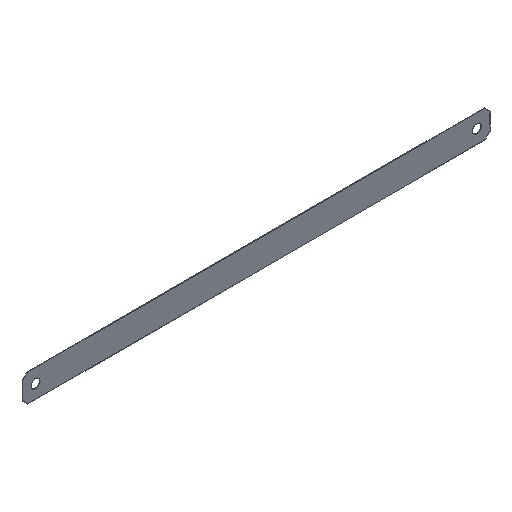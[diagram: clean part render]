
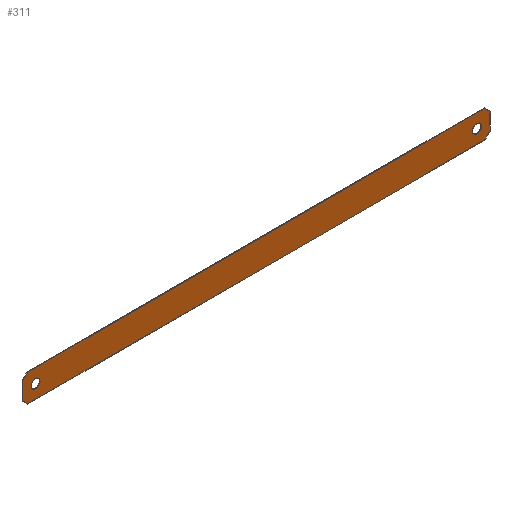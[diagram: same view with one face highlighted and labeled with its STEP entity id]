
A CAD part, isometric view. The second image highlights one B-rep face of the part: STEP entity #311.
In plain terms, the highlighted planar face has unit normal (0, -1, 0).
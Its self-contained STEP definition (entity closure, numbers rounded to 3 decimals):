
#4 = VECTOR ( 'NONE', #442, 1000. ) ;
#5 = AXIS2_PLACEMENT_3D ( 'NONE', #69, #317, #428 ) ;
#6 = VERTEX_POINT ( 'NONE', #419 ) ;
#21 = ORIENTED_EDGE ( 'NONE', *, *, #495, .F. ) ;
#24 = LINE ( 'NONE', #516, #433 ) ;
#30 = LINE ( 'NONE', #95, #104 ) ;
#34 = VERTEX_POINT ( 'NONE', #467 ) ;
#37 = DIRECTION ( 'NONE',  ( 0., 0., 1. ) ) ;
#40 = DIRECTION ( 'NONE',  ( 0., 1., 0. ) ) ;
#46 = VERTEX_POINT ( 'NONE', #307 ) ;
#48 = EDGE_CURVE ( 'NONE', #277, #502, #192, .T. ) ;
#50 = VECTOR ( 'NONE', #450, 1000. ) ;
#52 = ORIENTED_EDGE ( 'NONE', *, *, #115, .T. ) ;
#53 = AXIS2_PLACEMENT_3D ( 'NONE', #213, #85, #331 ) ;
#54 = CARTESIAN_POINT ( 'NONE',  ( 270., 0., -3. ) ) ;
#62 = VECTOR ( 'NONE', #156, 1000. ) ;
#65 = LINE ( 'NONE', #134, #50 ) ;
#69 = CARTESIAN_POINT ( 'NONE',  ( 262.5, 0., -8. ) ) ;
#73 = CARTESIAN_POINT ( 'NONE',  ( 262.5, 0., -8. ) ) ;
#78 = AXIS2_PLACEMENT_3D ( 'NONE', #393, #40, #397 ) ;
#79 = CARTESIAN_POINT ( 'NONE',  ( 267., 0., 0. ) ) ;
#84 = DIRECTION ( 'NONE',  ( 0.707, 0., 0.707 ) ) ;
#85 = DIRECTION ( 'NONE',  ( 0., -1., 0. ) ) ;
#88 = AXIS2_PLACEMENT_3D ( 'NONE', #323, #358, #37 ) ;
#89 = LINE ( 'NONE', #439, #443 ) ;
#95 = CARTESIAN_POINT ( 'NONE',  ( 0., 0., -16. ) ) ;
#104 = VECTOR ( 'NONE', #487, 1000. ) ;
#109 = CIRCLE ( 'NONE', #88, 2.5 ) ;
#111 = EDGE_LOOP ( 'NONE', ( #453, #375, #479, #183, #296, #416, #21, #257 ) ) ;
#112 = EDGE_CURVE ( 'NONE', #34, #290, #199, .T. ) ;
#115 = EDGE_CURVE ( 'NONE', #290, #34, #386, .T. ) ;
#118 = DIRECTION ( 'NONE',  ( 0., 0., 1. ) ) ;
#125 = AXIS2_PLACEMENT_3D ( 'NONE', #73, #354, #118 ) ;
#129 = EDGE_LOOP ( 'NONE', ( #303, #141 ) ) ;
#132 = FACE_OUTER_BOUND ( 'NONE', #111, .T. ) ;
#134 = CARTESIAN_POINT ( 'NONE',  ( -6.5, 0., -6.5 ) ) ;
#141 = ORIENTED_EDGE ( 'NONE', *, *, #276, .T. ) ;
#151 = VECTOR ( 'NONE', #197, 1000. ) ;
#156 = DIRECTION ( 'NONE',  ( -0.707, 0., 0.707 ) ) ;
#163 = LINE ( 'NONE', #206, #62 ) ;
#167 = EDGE_LOOP ( 'NONE', ( #52, #464 ) ) ;
#173 = CARTESIAN_POINT ( 'NONE',  ( 7.5, 0., -10.5 ) ) ;
#183 = ORIENTED_EDGE ( 'NONE', *, *, #48, .T. ) ;
#186 = CARTESIAN_POINT ( 'NONE',  ( 0., 0., -3. ) ) ;
#192 = LINE ( 'NONE', #246, #151 ) ;
#197 = DIRECTION ( 'NONE',  ( -0.707, 0., -0.707 ) ) ;
#199 = CIRCLE ( 'NONE', #125, 2.5 ) ;
#202 = CARTESIAN_POINT ( 'NONE',  ( 262.5, 0., -10.5 ) ) ;
#206 = CARTESIAN_POINT ( 'NONE',  ( 133.5, 0., 133.5 ) ) ;
#212 = EDGE_CURVE ( 'NONE', #277, #278, #24, .T. ) ;
#213 = CARTESIAN_POINT ( 'NONE',  ( 0., 0., 0. ) ) ;
#228 = EDGE_CURVE ( 'NONE', #392, #233, #496, .T. ) ;
#233 = VERTEX_POINT ( 'NONE', #436 ) ;
#241 = VECTOR ( 'NONE', #404, 1000. ) ;
#246 = CARTESIAN_POINT ( 'NONE',  ( 1.5, 0., -1.5 ) ) ;
#257 = ORIENTED_EDGE ( 'NONE', *, *, #340, .T. ) ;
#260 = CARTESIAN_POINT ( 'NONE',  ( 0., 0., 0. ) ) ;
#271 = LINE ( 'NONE', #260, #241 ) ;
#276 = EDGE_CURVE ( 'NONE', #233, #392, #109, .T. ) ;
#277 = VERTEX_POINT ( 'NONE', #472 ) ;
#278 = VERTEX_POINT ( 'NONE', #79 ) ;
#290 = VERTEX_POINT ( 'NONE', #202 ) ;
#296 = ORIENTED_EDGE ( 'NONE', *, *, #328, .F. ) ;
#297 = PLANE ( 'NONE',  #53 ) ;
#303 = ORIENTED_EDGE ( 'NONE', *, *, #228, .T. ) ;
#305 = EDGE_CURVE ( 'NONE', #491, #278, #163, .T. ) ;
#307 = CARTESIAN_POINT ( 'NONE',  ( 3., 0., -16. ) ) ;
#311 = ADVANCED_FACE ( 'NONE', ( #390, #132, #362 ), #297, .T. ) ;
#317 = DIRECTION ( 'NONE',  ( 0., 1., 0. ) ) ;
#321 = DIRECTION ( 'NONE',  ( 1., 0., 0. ) ) ;
#323 = CARTESIAN_POINT ( 'NONE',  ( 7.5, 0., -8. ) ) ;
#328 = EDGE_CURVE ( 'NONE', #369, #502, #271, .T. ) ;
#331 = DIRECTION ( 'NONE',  ( 0., 0., -1. ) ) ;
#340 = EDGE_CURVE ( 'NONE', #359, #6, #89, .T. ) ;
#354 = DIRECTION ( 'NONE',  ( 0., 1., 0. ) ) ;
#358 = DIRECTION ( 'NONE',  ( 0., 1., 0. ) ) ;
#359 = VERTEX_POINT ( 'NONE', #480 ) ;
#362 = FACE_BOUND ( 'NONE', #167, .T. ) ;
#369 = VERTEX_POINT ( 'NONE', #483 ) ;
#375 = ORIENTED_EDGE ( 'NONE', *, *, #305, .T. ) ;
#386 = CIRCLE ( 'NONE', #5, 2.5 ) ;
#390 = FACE_BOUND ( 'NONE', #129, .T. ) ;
#392 = VERTEX_POINT ( 'NONE', #173 ) ;
#393 = CARTESIAN_POINT ( 'NONE',  ( 7.5, 0., -8. ) ) ;
#397 = DIRECTION ( 'NONE',  ( 0., 0., 1. ) ) ;
#404 = DIRECTION ( 'NONE',  ( 0., 0., 1. ) ) ;
#416 = ORIENTED_EDGE ( 'NONE', *, *, #458, .T. ) ;
#419 = CARTESIAN_POINT ( 'NONE',  ( 270., 0., -13. ) ) ;
#428 = DIRECTION ( 'NONE',  ( 0., 0., 1. ) ) ;
#430 = EDGE_CURVE ( 'NONE', #491, #6, #459, .T. ) ;
#433 = VECTOR ( 'NONE', #321, 1000. ) ;
#436 = CARTESIAN_POINT ( 'NONE',  ( 7.5, 0., -5.5 ) ) ;
#439 = CARTESIAN_POINT ( 'NONE',  ( 141.5, 0., -141.5 ) ) ;
#442 = DIRECTION ( 'NONE',  ( 0., 0., -1. ) ) ;
#443 = VECTOR ( 'NONE', #84, 1000. ) ;
#444 = CARTESIAN_POINT ( 'NONE',  ( 270., 0., 0. ) ) ;
#450 = DIRECTION ( 'NONE',  ( 0.707, 0., -0.707 ) ) ;
#453 = ORIENTED_EDGE ( 'NONE', *, *, #430, .F. ) ;
#458 = EDGE_CURVE ( 'NONE', #369, #46, #65, .T. ) ;
#459 = LINE ( 'NONE', #444, #4 ) ;
#464 = ORIENTED_EDGE ( 'NONE', *, *, #112, .T. ) ;
#467 = CARTESIAN_POINT ( 'NONE',  ( 262.5, 0., -5.5 ) ) ;
#472 = CARTESIAN_POINT ( 'NONE',  ( 3., 0., 0. ) ) ;
#479 = ORIENTED_EDGE ( 'NONE', *, *, #212, .F. ) ;
#480 = CARTESIAN_POINT ( 'NONE',  ( 267., 0., -16. ) ) ;
#483 = CARTESIAN_POINT ( 'NONE',  ( 0., 0., -13. ) ) ;
#487 = DIRECTION ( 'NONE',  ( -1., 0., 0. ) ) ;
#491 = VERTEX_POINT ( 'NONE', #54 ) ;
#495 = EDGE_CURVE ( 'NONE', #359, #46, #30, .T. ) ;
#496 = CIRCLE ( 'NONE', #78, 2.5 ) ;
#502 = VERTEX_POINT ( 'NONE', #186 ) ;
#516 = CARTESIAN_POINT ( 'NONE',  ( 0., 0., 0. ) ) ;
